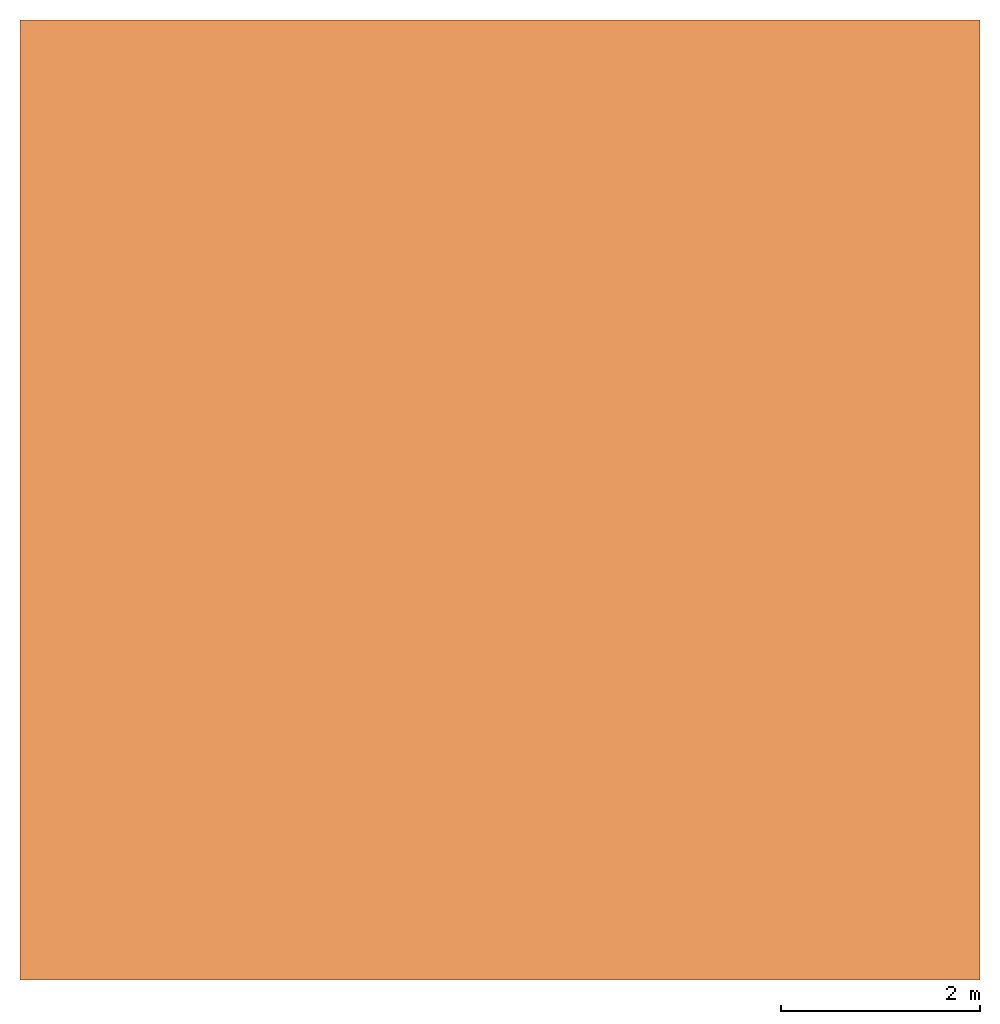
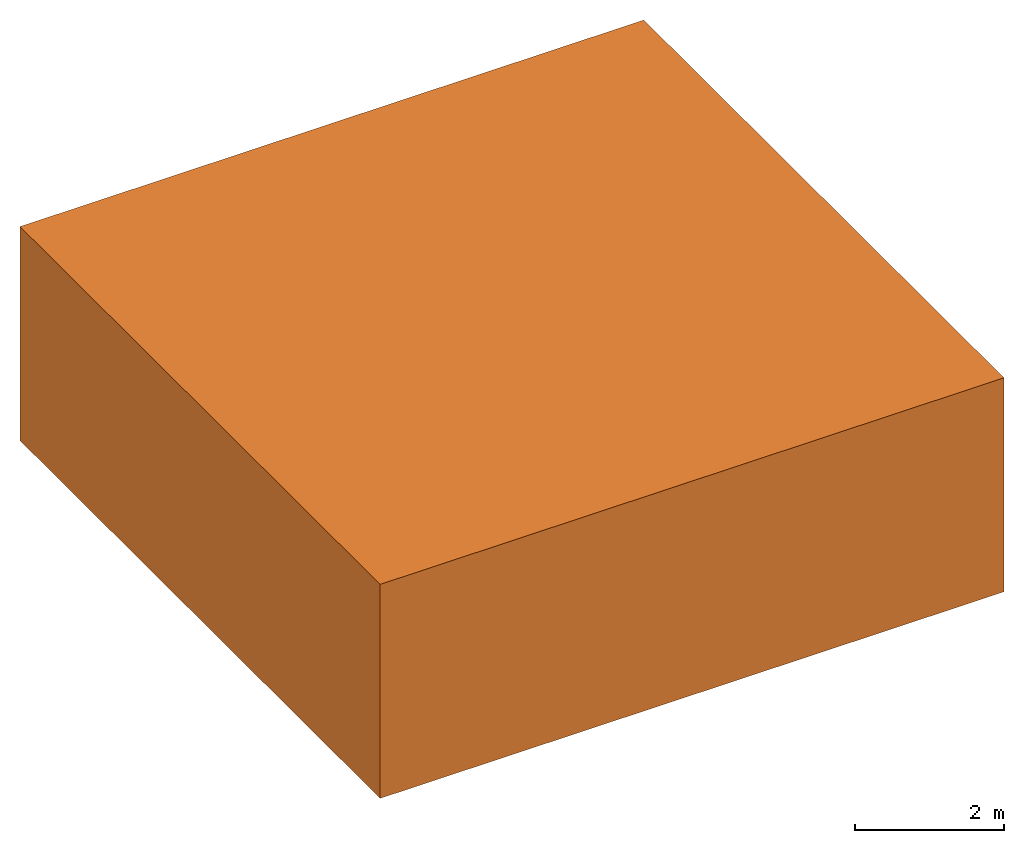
# One storey: 1 proxy.
"""IFC4 building model written with IfcOpenShell, lengths in metres."""

from ifc_helpers import new_model, entity, si_unit, converted_unit, derived_unit, frame, origin, place, context, subcontext, project, spatial, faceted_brep, element, save


model = new_model("IFC4")

# Units and contexts
model_context = context("Model", 3, precision=1e-05, world=origin())
body_context = subcontext(model_context, "Body", "Model", "MODEL_VIEW")
ifc_project = project(units=[si_unit("LENGTHUNIT", "METRE"), si_unit("AREAUNIT", "SQUARE_METRE"), si_unit("VOLUMEUNIT", "CUBIC_METRE"), si_unit("MASSUNIT", "GRAM", prefix="KILO"), converted_unit("PLANEANGLEUNIT", "DEGREE", entity("IfcPlaneAngleMeasure", 0.0174532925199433), si_unit("PLANEANGLEUNIT", "RADIAN"), dimensions=[0, 0, 0, 0, 0, 0, 0]), derived_unit("THERMALTRANSMITTANCEUNIT", [(si_unit("POWERUNIT", "WATT"), 1), (si_unit("THERMODYNAMICTEMPERATUREUNIT", "KELVIN"), -1), (si_unit("LENGTHUNIT", "METRE"), -2)]), derived_unit("VOLUMETRICFLOWRATEUNIT", [(si_unit("LENGTHUNIT", "METRE"), 3), (converted_unit("TIMEUNIT", "hour", entity("IfcTimeMeasure", 3600.0), si_unit("TIMEUNIT", "SECOND"), dimensions=[0, 0, 1, 0, 0, 0, 0]), -1), (si_unit("LENGTHUNIT", "METRE"), -1)])], contexts=[model_context])

# Site, building, storey
site_placement = place(None, origin())
site = spatial("IfcSite", under=ifc_project, at=site_placement, Name="Liegenschaft", CompositionType="ELEMENT")
building_placement = place(site_placement, origin())
building = spatial("IfcBuilding", under=site, at=building_placement, Name="Gebäude", CompositionType="ELEMENT")
storey_placement = place(building_placement, origin())
storey = spatial("IfcBuildingStorey", under=building, at=storey_placement, Name="Geschoss 03", CompositionType="ELEMENT", Elevation=0.0)

# Proxy
proxy_placement = place(storey_placement, frame((169.531764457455, -3.5932691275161, 2.75)))
element("IfcBuildingElementProxy", 1, at=proxy_placement, inside=storey, context=body_context, shape_type="Brep", body=[
    faceted_brep([(9.64999999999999, 9.65000000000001, 3.50000000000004), (9.64999999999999, 0.0, 3.50000000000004), (0.0, 0.0, 3.50000000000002), (0.0, 9.65000000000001, 3.50000000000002), (9.64999999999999, 9.65000000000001, 0.0), (9.64999999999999, 0.0, 0.0), (0.0, 0.0, 0.0), (0.0, 9.65000000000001, 0.0)], [[[0, 1, 2, 3]], [[0, 4, 5, 1]], [[2, 6, 7, 3]], [[3, 7, 4, 0]], [[1, 5, 6, 2]], [[7, 6, 5, 4]]], orient=[[False], [False], [False], [False], [False], [False]]),
])

save(model, "model.ifc")
